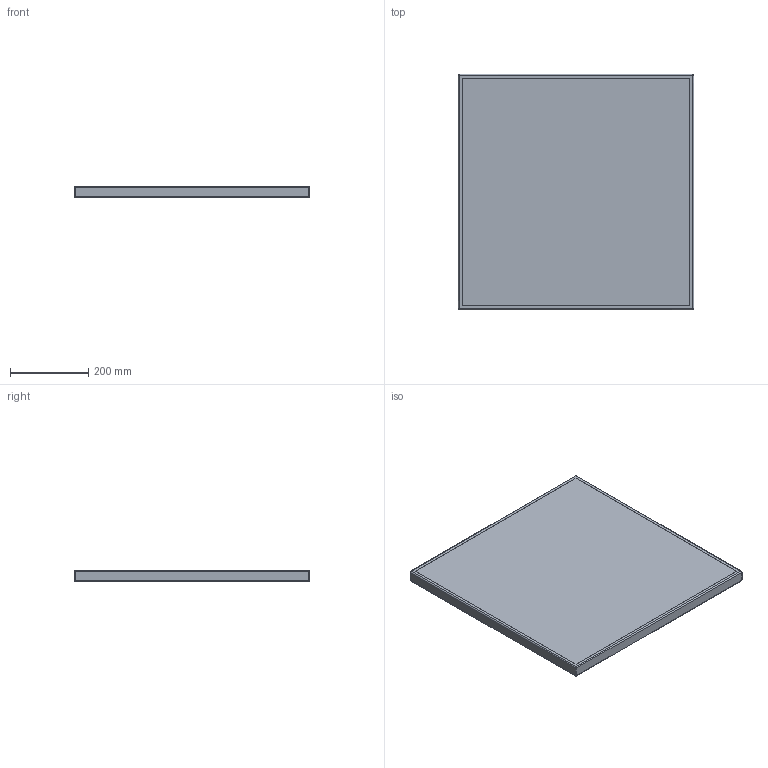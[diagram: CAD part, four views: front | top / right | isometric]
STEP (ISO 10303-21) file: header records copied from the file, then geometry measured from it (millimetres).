
FILE_DESCRIPTION(/* description */ (''),/* implementation_level */ '2;1');
FILE_NAME(/* name */ 'kinoshita_abord_tt010-600-600',/* time_stamp */ '2025-08-27T17:42:16+09:00',/* author */ (''),/* organization */ (''),/* preprocessor_version */ 'ST-DEVELOPER v16.5',/* originating_system */ '',/* authorisation */ '');
FILE_SCHEMA (('AUTOMOTIVE_DESIGN'));
Length unit declared in the file: millimetre
Products named in the file (1): Document
Bounding box: 600 x 600 x 30 mm (x, y, z)
Volume: 10756893.4 mm3; surface area: 1464254.8 mm2
Topology: 2 solids, 2 shells, 38 faces, 76 edges, 44 vertices
Faces by surface type: bspline 24, plane 14
Entity records: 970 total; most frequent: CARTESIAN_POINT 454, ORIENTED_EDGE 152, EDGE_CURVE 76, B_SPLINE_CURVE_WITH_KNOTS 52, VERTEX_POINT 44, EDGE_LOOP 40, ADVANCED_FACE 38, FACE_OUTER_BOUND 38
